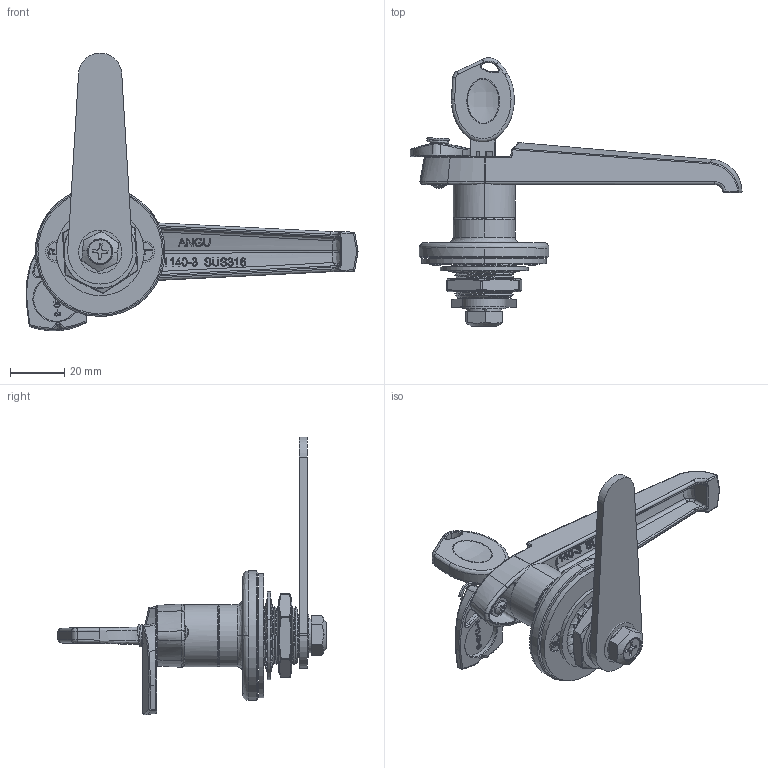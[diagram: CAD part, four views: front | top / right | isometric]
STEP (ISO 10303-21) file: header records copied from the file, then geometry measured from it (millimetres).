
FILE_DESCRIPTION (( 'STEP AP214' ), '1' );
FILE_NAME ('CUYUE B-1303-60¡ã_sldasm.STEP', '2026-06-18T03:09:12', ( '' ), ( '' ), 'SwSTEP 2.0', 'SolidWorks 2020', '' );
FILE_SCHEMA (( 'AUTOMOTIVE_DESIGN' ));
Length unit declared in the file: millimetre
Products named in the file (26): B-1303蚾饜极_A-1140-3_1_sldasm.sldasm-Part-8; B-1303蚾饜极_A-1140-3_1_sldasm.sldasm-Part-25; B-1303蚾饜极_A-1140-3_1_sldasm.sldasm-Part-11; B-1303蚾饜极_A-1140-3_1_sldasm.sldasm-Part-19; B-1303蚾饜极_A-1140-3_1_sldasm.sldasm-Part-2; B-1303蚾饜极_A-1140-3_1_sldasm.sldasm-Part-24; B-1303蚾饜极_A-1140-3_1_sldasm.sldasm-Part-16; B-1303蚾饜极_A-1140-3_1_sldasm.sldasm-Part-5; B-1303蚾饜极_A-1140-3_1_sldasm.sldasm-Part-14; CUYUE B-1303-60°_sldasm; B-1303蚾饜极_A-1140-3_1_sldasm.sldasm-Part-12; B-1303蚾饜极_A-1140-3_1_sldasm.sldasm-Part-18; B-1303蚾饜极_A-1140-3_1_sldasm.sldasm-Part-3; B-1303蚾饜极_A-1140-3_1_sldasm.sldasm-Part-20; B-1303蚾饜极_A-1140-3_1_sldasm.sldasm-Part-1; B-1303蚾饜极_A-1140-3_1_sldasm.sldasm-Part-22; B-1303蚾饜极_A-1140-3_1_sldasm.sldasm-Part-10; B-1303蚾饜极_A-1140-3_1_sldasm.sldasm-Part-15; B-1303蚾饜极_A-1140-3_1_sldasm.sldasm-Part-17; B-1303蚾饜极_A-1140-3_1_sldasm.sldasm-Part-23; B-1303蚾饜极_A-1140-3_1_sldasm.sldasm-Part-6; B-1303蚾饜极_A-1140-3_1_sldasm.sldasm-Part-9; B-1303蚾饜极_A-1140-3_1_sldasm.sldasm-Part-7; B-1303蚾饜极_A-1140-3_1_sldasm.sldasm-Part-4; B-1303蚾饜极_A-1140-3_1_sldasm.sldasm-Part-21; B-1303蚾饜极_A-1140-3_1_sldasm.sldasm-Part-13
Assembly tree (25 placements, depth 2):
  CUYUE B-1303-60°_sldasm
    B-1303蚾饜极_A-1140-3_1_sldasm.sldasm-Part-1
    B-1303蚾饜极_A-1140-3_1_sldasm.sldasm-Part-2
    B-1303蚾饜极_A-1140-3_1_sldasm.sldasm-Part-3
    B-1303蚾饜极_A-1140-3_1_sldasm.sldasm-Part-4
    B-1303蚾饜极_A-1140-3_1_sldasm.sldasm-Part-5
    B-1303蚾饜极_A-1140-3_1_sldasm.sldasm-Part-6
    B-1303蚾饜极_A-1140-3_1_sldasm.sldasm-Part-7
    B-1303蚾饜极_A-1140-3_1_sldasm.sldasm-Part-8
    B-1303蚾饜极_A-1140-3_1_sldasm.sldasm-Part-9
    B-1303蚾饜极_A-1140-3_1_sldasm.sldasm-Part-10
    B-1303蚾饜极_A-1140-3_1_sldasm.sldasm-Part-11
    B-1303蚾饜极_A-1140-3_1_sldasm.sldasm-Part-12
    B-1303蚾饜极_A-1140-3_1_sldasm.sldasm-Part-13
    B-1303蚾饜极_A-1140-3_1_sldasm.sldasm-Part-14
    B-1303蚾饜极_A-1140-3_1_sldasm.sldasm-Part-15
    B-1303蚾饜极_A-1140-3_1_sldasm.sldasm-Part-16
    B-1303蚾饜极_A-1140-3_1_sldasm.sldasm-Part-17
    B-1303蚾饜极_A-1140-3_1_sldasm.sldasm-Part-18
    B-1303蚾饜极_A-1140-3_1_sldasm.sldasm-Part-19
    B-1303蚾饜极_A-1140-3_1_sldasm.sldasm-Part-20
    B-1303蚾饜极_A-1140-3_1_sldasm.sldasm-Part-21
    B-1303蚾饜极_A-1140-3_1_sldasm.sldasm-Part-22
    B-1303蚾饜极_A-1140-3_1_sldasm.sldasm-Part-23
    B-1303蚾饜极_A-1140-3_1_sldasm.sldasm-Part-24
    B-1303蚾饜极_A-1140-3_1_sldasm.sldasm-Part-25
Bounding box: 122.87 x 99.3 x 102.84 mm (x, y, z)
Volume: 47951.8 mm3; surface area: 42102 mm2
Topology: 25 solids, 25 shells, 2793 faces, 7398 edges, 4720 vertices
Faces by surface type: bspline 1052, plane 845, cylinder 677, torus 125, cone 78, sphere 16
Entity records: 134502 total; most frequent: CARTESIAN_POINT 72885, ORIENTED_EDGE 14724, DIRECTION 9338, EDGE_CURVE 7362, VERTEX_POINT 4716, AXIS2_PLACEMENT_3D 3193, LINE 2952, VECTOR 2952
